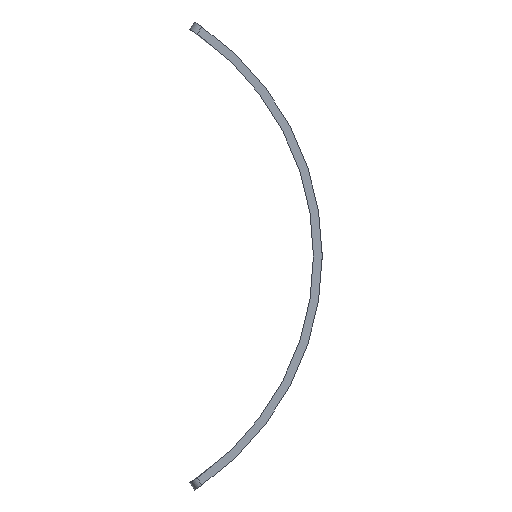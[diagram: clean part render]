
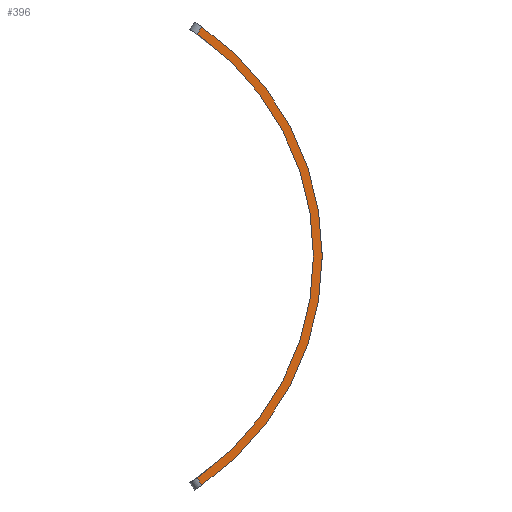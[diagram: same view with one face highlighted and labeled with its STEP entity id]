
A CAD part, front view. The second image highlights one B-rep face of the part: STEP entity #396.
In plain terms, the highlighted planar face has unit normal (0, -1, 0).
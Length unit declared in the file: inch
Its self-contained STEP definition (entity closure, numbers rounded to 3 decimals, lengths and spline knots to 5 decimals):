
#58 = CIRCLE ( 'NONE', #294, 31.92 ) ;
#60 = DIRECTION ( 'NONE',  ( 0., 0., -1. ) ) ;
#67 = ORIENTED_EDGE ( 'NONE', *, *, #613, .T. ) ;
#72 = EDGE_LOOP ( 'NONE', ( #737, #181, #332, #67 ) ) ;
#87 = DIRECTION ( 'NONE',  ( 0., 1., 0. ) ) ;
#104 = EDGE_CURVE ( 'NONE', #486, #210, #58, .T. ) ;
#115 = DIRECTION ( 'NONE',  ( 0., -1., 0. ) ) ;
#118 = VECTOR ( 'NONE', #554, 39.37008 ) ;
#150 = VERTEX_POINT ( 'NONE', #755 ) ;
#156 = CARTESIAN_POINT ( 'NONE',  ( 120.84076, 7., 0.54141 ) ) ;
#181 = ORIENTED_EDGE ( 'NONE', *, *, #585, .T. ) ;
#210 = VERTEX_POINT ( 'NONE', #387 ) ;
#272 = CARTESIAN_POINT ( 'NONE',  ( 120., 7., 0. ) ) ;
#294 = AXIS2_PLACEMENT_3D ( 'NONE', #272, #87, #498 ) ;
#306 = AXIS2_PLACEMENT_3D ( 'NONE', #447, #689, #629 ) ;
#332 = ORIENTED_EDGE ( 'NONE', *, *, #104, .F. ) ;
#333 = DIRECTION ( 'NONE',  ( 0.541, 0., -0.841 ) ) ;
#368 = VECTOR ( 'NONE', #333, 39.37008 ) ;
#387 = CARTESIAN_POINT ( 'NONE',  ( 138.11415, 7., -26.28239 ) ) ;
#395 = LINE ( 'NONE', #156, #368 ) ;
#396 = ADVANCED_FACE ( 'NONE', ( #454 ), #578, .T. ) ;
#402 = CIRCLE ( 'NONE', #306, 30.92 ) ;
#447 = CARTESIAN_POINT ( 'NONE',  ( 120., 7., 0. ) ) ;
#454 = FACE_OUTER_BOUND ( 'NONE', #72, .T. ) ;
#486 = VERTEX_POINT ( 'NONE', #610 ) ;
#488 = CARTESIAN_POINT ( 'NONE',  ( 120.84076, 7., -0.54141 ) ) ;
#498 = DIRECTION ( 'NONE',  ( 0., 0., 1. ) ) ;
#503 = LINE ( 'NONE', #488, #118 ) ;
#554 = DIRECTION ( 'NONE',  ( -0.541, 0., -0.841 ) ) ;
#578 = PLANE ( 'NONE',  #692 ) ;
#585 = EDGE_CURVE ( 'NONE', #660, #210, #395, .T. ) ;
#610 = CARTESIAN_POINT ( 'NONE',  ( 138.11415, 7., 26.28239 ) ) ;
#613 = EDGE_CURVE ( 'NONE', #486, #150, #503, .T. ) ;
#629 = DIRECTION ( 'NONE',  ( 0., 0., 1. ) ) ;
#635 = CARTESIAN_POINT ( 'NONE',  ( 120., 7., 0. ) ) ;
#660 = VERTEX_POINT ( 'NONE', #686 ) ;
#667 = EDGE_CURVE ( 'NONE', #150, #660, #402, .T. ) ;
#686 = CARTESIAN_POINT ( 'NONE',  ( 137.57246, 7., -25.44121 ) ) ;
#689 = DIRECTION ( 'NONE',  ( 0., 1., 0. ) ) ;
#692 = AXIS2_PLACEMENT_3D ( 'NONE', #635, #115, #60 ) ;
#737 = ORIENTED_EDGE ( 'NONE', *, *, #667, .T. ) ;
#755 = CARTESIAN_POINT ( 'NONE',  ( 137.57246, 7., 25.44121 ) ) ;
